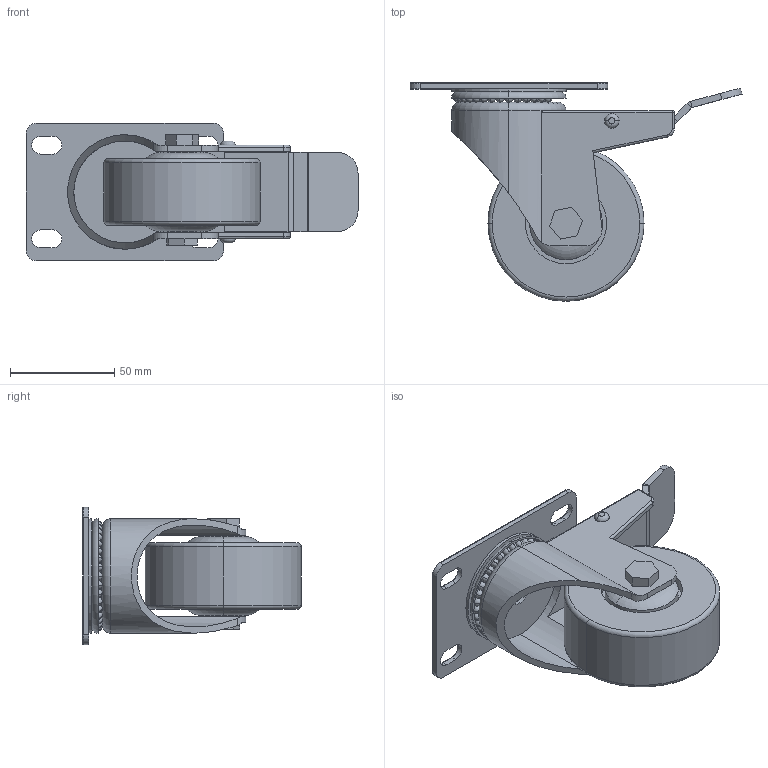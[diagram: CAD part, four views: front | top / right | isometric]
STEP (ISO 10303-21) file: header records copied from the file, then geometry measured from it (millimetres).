
FILE_DESCRIPTION (( 'STEP AP203' ), '1' );
FILE_NAME ('233-CE-CAT-3.STEP', '2015-07-09T09:35:20', ( '' ), ( '' ), 'SwSTEP 2.0', 'SolidWorks 2013', '' );
FILE_SCHEMA (( 'CONFIG_CONTROL_DESIGN' ));
Length unit declared in the file: millimetre
Products named in the file (1): 233-CE-CAT-3
Bounding box: 159.59 x 105.04 x 66 mm (x, y, z)
Surface area: 65467.2 mm2 (no closed solid volume)
Topology: 0 solids, 36 shells, 235 faces, 629 edges, 411 vertices
Faces by surface type: plane 69, cylinder 65, sphere 60, torus 40, bspline 1
Entity records: 6497 total; most frequent: CARTESIAN_POINT 1263, DIRECTION 1209, ORIENTED_EDGE 928, AXIS2_PLACEMENT_3D 506, EDGE_CURVE 482, VERTEX_POINT 324, CIRCLE 271, EDGE_LOOP 261
